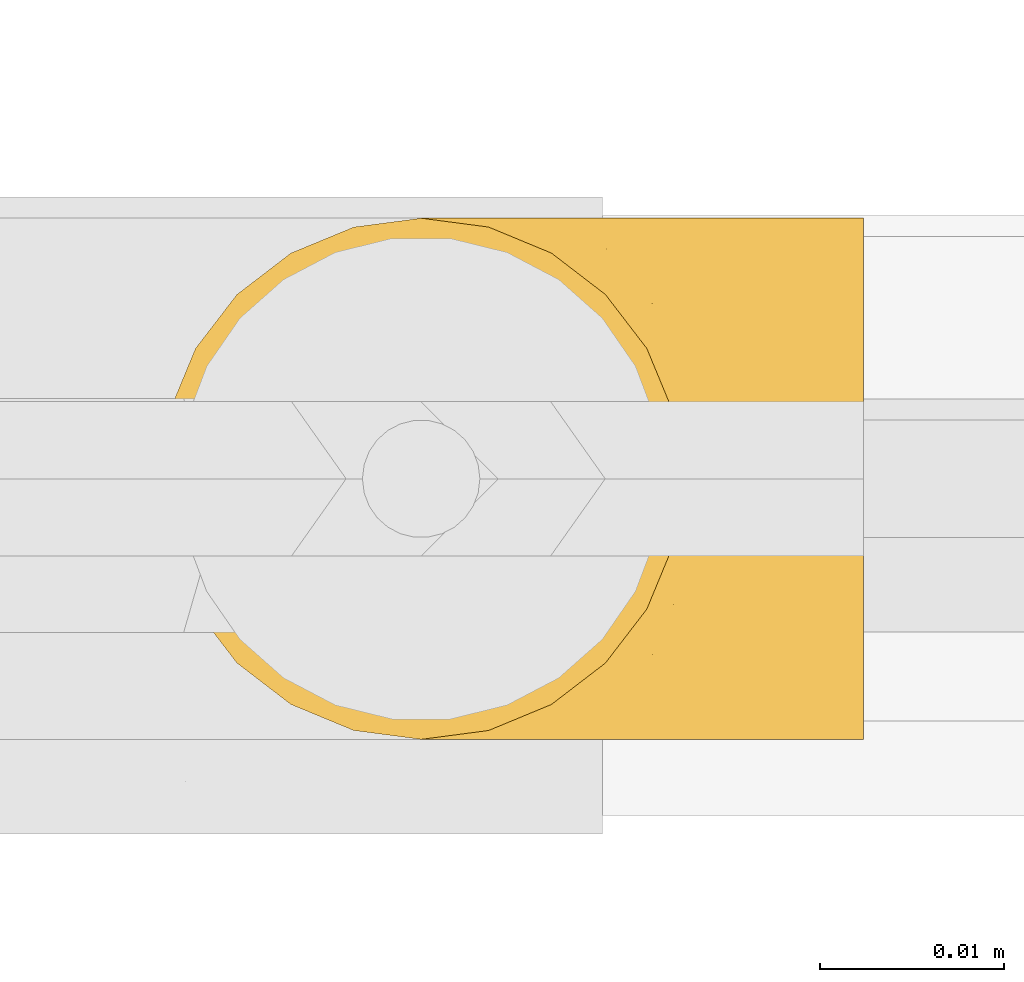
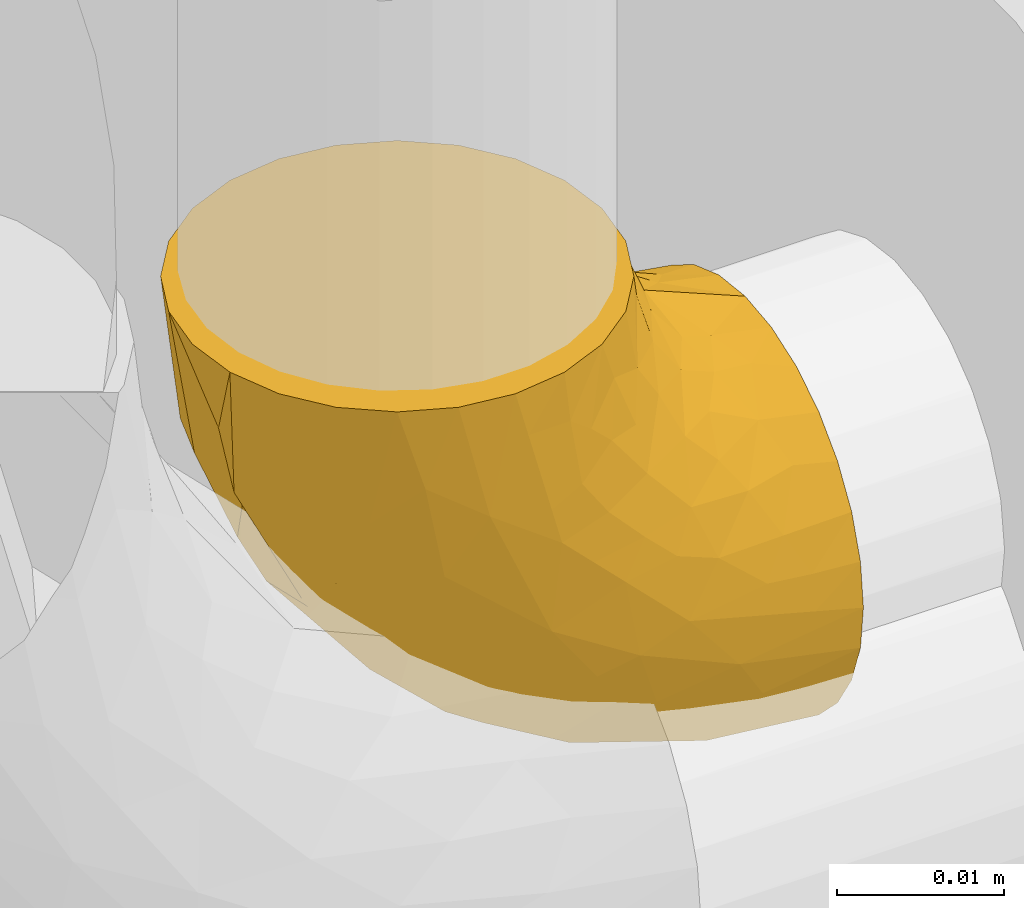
# One storey, part 13 of 32: 1 covering.
"""IFC2X3 building model written with IfcOpenShell, lengths in metres."""

from ifc_helpers import new_model, entity, si_unit, converted_unit, derived_unit, direction, frame, origin, place, context, subcontext, project, spatial, faceted_brep, material, type_object, element, save


model = new_model("IFC2X3")

# Units and contexts
model_context = context("Model", 3, precision=1e-05, world=origin(), true_north=direction((6.123031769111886e-17, 1.0)))
body_context = subcontext(model_context, "Body", "Model", "MODEL_VIEW")
ifc_project = project(units=[si_unit("LENGTHUNIT", "METRE"), si_unit("AREAUNIT", "SQUARE_METRE"), si_unit("VOLUMEUNIT", "CUBIC_METRE"), converted_unit("PLANEANGLEUNIT", "DEGREE", entity("IfcPlaneAngleMeasure", 0.017453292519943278), si_unit("PLANEANGLEUNIT", "RADIAN"), dimensions=[0, 0, 0, 0, 0, 0, 0]), si_unit("MASSUNIT", "GRAM", prefix="KILO"), derived_unit("MASSDENSITYUNIT", [(si_unit("MASSUNIT", "GRAM", prefix="KILO"), 1), (si_unit("LENGTHUNIT", "METRE"), -3)]), derived_unit("IONCONCENTRATIONUNIT", [(si_unit("MASSUNIT", "GRAM", prefix="KILO"), 1), (si_unit("LENGTHUNIT", "METRE"), -3)]), derived_unit("MOMENTOFINERTIAUNIT", [(si_unit("LENGTHUNIT", "METRE"), 4)]), si_unit("TIMEUNIT", "SECOND"), si_unit("FREQUENCYUNIT", "HERTZ"), si_unit("THERMODYNAMICTEMPERATUREUNIT", "DEGREE_CELSIUS"), derived_unit("THERMALTRANSMITTANCEUNIT", [(si_unit("MASSUNIT", "GRAM", prefix="KILO"), 1), (si_unit("THERMODYNAMICTEMPERATUREUNIT", "KELVIN"), -1), (si_unit("TIMEUNIT", "SECOND"), -3)]), derived_unit("THERMALCONDUCTANCEUNIT", [(si_unit("MASSUNIT", "GRAM", prefix="KILO"), 1), (si_unit("THERMODYNAMICTEMPERATUREUNIT", "KELVIN"), -1), (si_unit("TIMEUNIT", "SECOND"), -3), (si_unit("LENGTHUNIT", "METRE"), 1)]), derived_unit("VOLUMETRICFLOWRATEUNIT", [(si_unit("LENGTHUNIT", "METRE", prefix="DECI"), 3), (si_unit("TIMEUNIT", "SECOND"), -1)]), derived_unit("MASSFLOWRATEUNIT", [(si_unit("MASSUNIT", "GRAM", prefix="KILO"), 1), (si_unit("TIMEUNIT", "SECOND"), -1)]), derived_unit("ROTATIONALFREQUENCYUNIT", [(si_unit("TIMEUNIT", "SECOND"), -1)]), si_unit("ELECTRICCURRENTUNIT", "AMPERE"), si_unit("ELECTRICVOLTAGEUNIT", "VOLT"), si_unit("POWERUNIT", "WATT"), si_unit("FORCEUNIT", "NEWTON", prefix="KILO"), si_unit("ILLUMINANCEUNIT", "LUX"), si_unit("LUMINOUSFLUXUNIT", "LUMEN"), si_unit("LUMINOUSINTENSITYUNIT", "CANDELA"), si_unit("ENERGYUNIT", "JOULE"), derived_unit("USERDEFINED", [(si_unit("MASSUNIT", "GRAM", prefix="KILO"), -1), (si_unit("LENGTHUNIT", "METRE"), -2), (si_unit("TIMEUNIT", "SECOND"), 3), (si_unit("LUMINOUSFLUXUNIT", "LUMEN"), 1)]), derived_unit("USERDEFINED", [(si_unit("MASSUNIT", "GRAM", prefix="KILO"), 1), (si_unit("TIMEUNIT", "SECOND"), -3), (si_unit("LENGTHUNIT", "METRE"), 3), (si_unit("ELECTRICCURRENTUNIT", "AMPERE"), -2)]), derived_unit("SOUNDPOWERUNIT", [(si_unit("MASSUNIT", "GRAM", prefix="KILO"), 1), (si_unit("TIMEUNIT", "SECOND"), -3), (si_unit("LENGTHUNIT", "METRE"), 2)]), derived_unit("SOUNDPRESSUREUNIT", [(si_unit("MASSUNIT", "GRAM", prefix="KILO"), 1), (si_unit("LENGTHUNIT", "METRE"), -1), (si_unit("TIMEUNIT", "SECOND"), -2)]), derived_unit("LINEARVELOCITYUNIT", [(si_unit("LENGTHUNIT", "METRE"), 1), (si_unit("TIMEUNIT", "SECOND"), -1)]), si_unit("PRESSUREUNIT", "PASCAL"), derived_unit("USERDEFINED", [(si_unit("MASSUNIT", "GRAM", prefix="KILO"), 1), (si_unit("LENGTHUNIT", "METRE"), -2), (si_unit("TIMEUNIT", "SECOND"), -2)]), derived_unit("LINEARFORCEUNIT", [(si_unit("MASSUNIT", "GRAM", prefix="KILO"), 1), (si_unit("TIMEUNIT", "SECOND"), -2)]), derived_unit("PLANARFORCEUNIT", [(si_unit("MASSUNIT", "GRAM", prefix="KILO"), 1), (si_unit("LENGTHUNIT", "METRE"), -1), (si_unit("TIMEUNIT", "SECOND"), -2)]), derived_unit("SPECIFICHEATCAPACITYUNIT", [(si_unit("THERMODYNAMICTEMPERATUREUNIT", "KELVIN"), -1), (si_unit("LENGTHUNIT", "METRE"), 2), (si_unit("TIMEUNIT", "SECOND"), -2)]), derived_unit("HEATFLUXDENSITYUNIT", [(si_unit("MASSUNIT", "GRAM", prefix="KILO"), 1), (si_unit("TIMEUNIT", "SECOND"), -3)]), derived_unit("HEATINGVALUEUNIT", [(si_unit("LENGTHUNIT", "METRE"), 2), (si_unit("TIMEUNIT", "SECOND"), -2)]), derived_unit("VAPORPERMEABILITYUNIT", [(si_unit("LENGTHUNIT", "METRE"), -1), (si_unit("TIMEUNIT", "SECOND"), 1)]), derived_unit("DYNAMICVISCOSITYUNIT", [(si_unit("MASSUNIT", "GRAM", prefix="KILO"), 1), (si_unit("TIMEUNIT", "SECOND"), -1), (si_unit("LENGTHUNIT", "METRE"), -1)]), derived_unit("THERMALEXPANSIONCOEFFICIENTUNIT", [(si_unit("THERMODYNAMICTEMPERATUREUNIT", "KELVIN"), -1)]), derived_unit("MODULUSOFELASTICITYUNIT", [(si_unit("MASSUNIT", "GRAM", prefix="KILO"), 1), (si_unit("LENGTHUNIT", "METRE"), -1), (si_unit("TIMEUNIT", "SECOND"), -2)]), derived_unit("ISOTHERMALMOISTURECAPACITYUNIT", [(si_unit("MASSUNIT", "GRAM", prefix="KILO"), -1), (si_unit("LENGTHUNIT", "METRE"), 3)]), derived_unit("MOISTUREDIFFUSIVITYUNIT", [(si_unit("TIMEUNIT", "SECOND"), -1), (si_unit("LENGTHUNIT", "METRE"), 2)]), derived_unit("MASSPERLENGTHUNIT", [(si_unit("MASSUNIT", "GRAM", prefix="KILO"), 1), (si_unit("LENGTHUNIT", "METRE"), -1)]), derived_unit("THERMALRESISTANCEUNIT", [(si_unit("MASSUNIT", "GRAM", prefix="KILO"), -1), (si_unit("TIMEUNIT", "SECOND"), 3), (si_unit("THERMODYNAMICTEMPERATUREUNIT", "KELVIN"), 1)]), derived_unit("ACCELERATIONUNIT", [(si_unit("LENGTHUNIT", "METRE"), 1), (si_unit("TIMEUNIT", "SECOND"), -2)]), derived_unit("ANGULARVELOCITYUNIT", [(si_unit("TIMEUNIT", "SECOND"), -1), (si_unit("PLANEANGLEUNIT", "RADIAN"), 1)]), derived_unit("LINEARSTIFFNESSUNIT", [(si_unit("MASSUNIT", "GRAM", prefix="KILO"), 1), (si_unit("TIMEUNIT", "SECOND"), -2)]), derived_unit("WARPINGCONSTANTUNIT", [(si_unit("LENGTHUNIT", "METRE"), 6)]), derived_unit("LINEARMOMENTUNIT", [(si_unit("MASSUNIT", "GRAM", prefix="KILO"), 1), (si_unit("LENGTHUNIT", "METRE"), 1), (si_unit("TIMEUNIT", "SECOND"), -2)]), derived_unit("TORQUEUNIT", [(si_unit("MASSUNIT", "GRAM", prefix="KILO"), 1), (si_unit("LENGTHUNIT", "METRE"), 2), (si_unit("TIMEUNIT", "SECOND"), -2)])], contexts=[model_context])

# Site, building, storey
site_placement = place(None, origin())
site = spatial("IfcSite", under=ifc_project, at=site_placement, Name="Default", CompositionType="ELEMENT")
building_placement = place(site_placement, origin())
building = spatial("IfcBuilding", under=site, at=building_placement, CompositionType="ELEMENT")
storey_placement = place(building_placement, origin())
storey = spatial("IfcBuildingStorey", under=building, at=storey_placement, Name="Niveau 0", CompositionType="ELEMENT", Elevation=-1.949160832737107e-14)

# Covering
ifc_material = material(Name="Matériau du rendu 255-255-255")
covering_type = type_object("IfcCoveringType", Name="Isolation des canalisations:Par défaut", PredefinedType="INSULATION")
covering_placement = place(storey_placement, frame((-14.986716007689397, 1.361257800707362, -0.37430472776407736)))
element("IfcCovering", 1, at=covering_placement, inside=storey, type_object=covering_type, material=ifc_material, Name="Isolation des canalisations:Par défaut", ObjectType="Isolation des canalisations:Par défaut", PredefinedType="INSULATION", context=body_context, shape_type="Brep", body=[
    faceted_brep([(0.03989527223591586, 0.0019516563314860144, -0.028856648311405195), (0.03989527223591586, 0.0030025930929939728, -0.03185866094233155), (0.03989527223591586, 0.00469499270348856, -0.03455099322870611), (0.03989527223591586, 0.006943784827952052, -0.03679892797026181), (0.03989527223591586, 0.009636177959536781, -0.03849001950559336), (0.03989527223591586, 0.012637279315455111, -0.03953966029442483), (0.03989527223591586, 0.01579527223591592, -0.03989527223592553), (0.03989527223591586, 0.018956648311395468, -0.03953888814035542), (0.03989527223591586, 0.02195866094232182, -0.03848795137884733), (0.03989527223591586, 0.02465099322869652, -0.03679555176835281), (0.03989527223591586, 0.02689892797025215, -0.03454675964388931), (0.03989527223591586, 0.0285900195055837, -0.03185436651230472), (0.03989527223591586, 0.029639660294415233, -0.02885326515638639), (0.03989527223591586, 0.02999527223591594, -0.025695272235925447), (0.03989527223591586, 0.029638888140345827, -0.022533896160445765), (0.03989527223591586, 0.028587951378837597, -0.01953188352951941), (0.03989527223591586, 0.02689555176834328, -0.016839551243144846), (0.03989527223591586, 0.02464675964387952, -0.014591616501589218), (0.03989527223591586, 0.02195436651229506, -0.012900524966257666), (0.03989527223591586, 0.018953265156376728, -0.011850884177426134), (0.03989527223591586, 0.01579527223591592, -0.011495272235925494), (0.03989527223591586, 0.012633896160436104, -0.011851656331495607), (0.03989527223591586, 0.009631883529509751, -0.0129025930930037), (0.03989527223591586, 0.0069395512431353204, -0.01459499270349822), (0.03989527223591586, 0.004691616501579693, -0.01684378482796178), (0.03989527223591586, 0.0030005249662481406, -0.019536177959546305), (0.03989527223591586, 0.0019508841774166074, -0.022537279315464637), (0.03989527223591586, 0.0015952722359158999, -0.025695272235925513), (0.029511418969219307, 0.019470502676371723, -0.0015952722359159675), (0.028092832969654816, 0.02289527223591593, -0.0015952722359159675), (0.025836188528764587, 0.025836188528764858, -0.0015952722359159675), (0.02289527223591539, 0.028092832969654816, -0.0015952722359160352), (0.019470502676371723, 0.029511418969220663, -0.0015952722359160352), (0.01579527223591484, 0.02999527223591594, -0.0015952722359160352), (0.012120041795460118, 0.029511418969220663, -0.0015952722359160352), (0.008695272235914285, 0.028092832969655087, -0.0015952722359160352), (0.005754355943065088, 0.025836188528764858, -0.0015952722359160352), (0.0034977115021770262, 0.02289527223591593, -0.0015952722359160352), (0.002079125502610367, 0.019470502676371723, -0.0015952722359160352), (0.0015952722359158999, 0.01579527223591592, -0.0015952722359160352), (0.002079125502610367, 0.012120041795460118, -0.0015952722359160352), (0.0034977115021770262, 0.00869527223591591, -0.0015952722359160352), (0.005754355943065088, 0.005754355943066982, -0.0015952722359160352), (0.008695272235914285, 0.0034977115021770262, -0.0015952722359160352), (0.012120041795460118, 0.002079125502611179, -0.0015952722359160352), (0.01579527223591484, 0.0015952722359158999, -0.0015952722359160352), (0.019470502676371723, 0.002079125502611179, -0.0015952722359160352), (0.02289527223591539, 0.0034977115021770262, -0.0015952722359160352), (0.025836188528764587, 0.005754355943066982, -0.0015952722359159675), (0.028092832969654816, 0.00869527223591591, -0.0015952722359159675), (0.029511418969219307, 0.012120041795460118, -0.0015952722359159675), (0.02999527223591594, 0.01579527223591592, -0.0015952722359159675), (0.03146698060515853, 0.0018566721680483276, -0.02704820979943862), (0.0031203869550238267, 0.013423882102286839, -0.011558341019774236), (0.0034119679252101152, 0.01579527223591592, -0.008375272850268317), (0.005069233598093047, 0.01579527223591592, -0.014560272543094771), (0.011886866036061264, 0.003337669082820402, -0.014682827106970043), (0.00768296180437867, 0.0050496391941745, -0.010357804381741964), (0.010723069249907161, 0.005409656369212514, -0.018634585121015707), (0.024625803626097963, 0.0019283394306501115, -0.024053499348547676), (0.027845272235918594, 0.0015952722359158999, -0.02246648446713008), (0.030629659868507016, 0.011502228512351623, -0.03807237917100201), (0.02392756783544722, 0.009156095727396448, -0.034586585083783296), (0.02345906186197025, 0.012083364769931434, -0.035641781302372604), (0.018688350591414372, 0.002245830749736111, -0.020408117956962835), (0.023434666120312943, 0.0015952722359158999, -0.018055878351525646), (0.007069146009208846, 0.008040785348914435, -0.016364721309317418), (0.003657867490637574, 0.010786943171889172, -0.010797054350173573), (0.007105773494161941, 0.011666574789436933, -0.020172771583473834), (0.010332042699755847, 0.002946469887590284, -0.007491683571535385), (0.014222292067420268, 0.0019132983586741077, -0.010237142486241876), (0.012450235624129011, 0.008787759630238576, -0.025582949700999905), (0.019024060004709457, 0.0015952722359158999, -0.013645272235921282), (0.018308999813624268, 0.0015952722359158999, -0.010976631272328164), (0.017593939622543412, 0.0015952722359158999, -0.00830799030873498), (0.017409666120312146, 0.0015952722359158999, -0.007620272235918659), (0.016694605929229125, 0.0015952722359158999, -0.004951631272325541), (0.02208875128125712, 0.002682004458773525, -0.025175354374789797), (0.015751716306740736, 0.0035716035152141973, -0.021556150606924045), (0.020432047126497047, 0.0038638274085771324, -0.02674252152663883), (0.032926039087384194, 0.004162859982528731, -0.03307723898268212), (0.030551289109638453, 0.006322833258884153, -0.03499160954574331), (0.03305521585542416, 0.008616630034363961, -0.03729777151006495), (0.026930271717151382, 0.01579527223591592, -0.036421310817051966), (0.03354339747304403, 0.0026590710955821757, -0.030395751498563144), (0.026409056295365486, 0.003024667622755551, -0.028738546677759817), (0.004907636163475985, 0.007548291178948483, -0.008485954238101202), (0.03653891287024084, 0.0015952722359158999, -0.024795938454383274), (0.03387027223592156, 0.0015952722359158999, -0.024080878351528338), (0.03318255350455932, 0.0015952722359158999, -0.023896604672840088), (0.03051391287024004, 0.0015952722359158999, -0.023181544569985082), (0.024636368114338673, 0.004997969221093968, -0.031219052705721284), (0.019588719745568, 0.007159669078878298, -0.030558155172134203), (0.03311527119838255, 0.01579527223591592, -0.038078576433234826), (0.01610566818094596, 0.005390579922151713, -0.0255541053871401), (0.013735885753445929, 0.01579527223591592, -0.027754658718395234), (0.02074527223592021, 0.01579527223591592, -0.03476404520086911), (0.01696345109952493, 0.012056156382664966, -0.031643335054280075), (0.006726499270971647, 0.01579527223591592, -0.02074527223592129), (0.01151397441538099, 0.01168198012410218, -0.026397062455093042), (0.018143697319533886, 0.009491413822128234, -0.03130855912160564), (0.021229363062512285, 0.0015952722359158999, -0.0158505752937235), (0.02563996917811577, 0.0015952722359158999, -0.020261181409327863), (0.030232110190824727, 0.0022134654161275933, -0.019055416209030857), (0.03504783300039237, 0.0027610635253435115, -0.01941299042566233), (0.033347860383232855, 0.004050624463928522, -0.01632414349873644), (0.020600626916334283, 0.001920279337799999, -0.01008373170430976), (0.019902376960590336, 0.002102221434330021, -0.00533489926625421), (0.026696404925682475, 0.005860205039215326, -0.006124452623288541), (0.028391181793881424, 0.006234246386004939, -0.008851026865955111), (0.029556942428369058, 0.008939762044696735, -0.006997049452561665), (0.025886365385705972, 0.003257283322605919, -0.011972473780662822), (0.02249376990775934, 0.0020017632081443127, -0.012855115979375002), (0.02503988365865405, 0.0020805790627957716, -0.015604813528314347), (0.028891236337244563, 0.009727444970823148, -0.003990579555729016), (0.02158166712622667, 0.002533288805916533, -0.006747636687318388), (0.024031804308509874, 0.0040093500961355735, -0.004778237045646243), (0.03137801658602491, 0.012324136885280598, -0.007441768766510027), (0.03289491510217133, 0.01579527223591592, -0.008595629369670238), (0.03144509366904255, 0.01579527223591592, -0.0050954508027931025), (0.03317880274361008, 0.01175165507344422, -0.009650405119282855), (0.036552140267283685, 0.0019493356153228, -0.02227559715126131), (0.03568980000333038, 0.01261668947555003, -0.010954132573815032), (0.03423455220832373, 0.009696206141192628, -0.011348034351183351), (0.03722732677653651, 0.010446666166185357, -0.012210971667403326), (0.035780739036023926, 0.007063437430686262, -0.013823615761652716), (0.032410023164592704, 0.007124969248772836, -0.012045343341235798), (0.031437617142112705, 0.0088288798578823, -0.009717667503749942), (0.036925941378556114, 0.00493063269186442, -0.016254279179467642), (0.033404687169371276, 0.0018816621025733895, -0.021842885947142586), (0.03010341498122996, 0.012792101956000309, -0.00452657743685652), (0.036395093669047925, 0.01579527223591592, -0.010045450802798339), (0.028851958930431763, 0.0031282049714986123, -0.015405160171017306), (0.031813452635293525, 0.004981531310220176, -0.014108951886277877), (0.025603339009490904, 0.004122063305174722, -0.008820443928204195), (0.023265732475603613, 0.002976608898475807, -0.008460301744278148), (0.027264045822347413, 0.0020511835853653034, -0.017780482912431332), (0.029734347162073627, 0.005370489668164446, -0.011880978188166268), (0.03143814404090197, 0.02275844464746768, -0.00971559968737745), (0.031377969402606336, 0.019266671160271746, -0.007441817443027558), (0.033180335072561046, 0.019833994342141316, -0.00964979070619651), (0.03653891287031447, 0.02999527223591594, -0.024795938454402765), (0.029871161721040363, 0.01996442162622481, -0.004806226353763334), (0.018308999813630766, 0.02999527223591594, -0.010976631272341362), (0.02060062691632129, 0.029670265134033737, -0.01008373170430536), (0.019024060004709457, 0.02999527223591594, -0.013645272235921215), (0.02867750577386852, 0.022374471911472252, -0.004199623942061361), (0.019902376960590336, 0.029488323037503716, -0.0053348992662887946), (0.016694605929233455, 0.02999527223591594, -0.004951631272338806), (0.029738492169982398, 0.026214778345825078, -0.011877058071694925), (0.028856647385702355, 0.028458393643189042, -0.01539894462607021), (0.025891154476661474, 0.02832921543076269, -0.011966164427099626), (0.02326573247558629, 0.028613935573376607, -0.008460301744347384), (0.021581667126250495, 0.029057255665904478, -0.006747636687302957), (0.02403180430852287, 0.027581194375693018, -0.004778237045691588), (0.02669633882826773, 0.025730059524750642, -0.00612341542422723), (0.028391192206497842, 0.02535501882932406, -0.00884885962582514), (0.029555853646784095, 0.02264995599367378, -0.006993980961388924), (0.03722818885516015, 0.021139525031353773, -0.012209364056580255), (0.03569117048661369, 0.01897135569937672, -0.010954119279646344), (0.03504891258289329, 0.02882716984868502, -0.019407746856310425), (0.03655023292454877, 0.02964047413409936, -0.02227202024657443), (0.03578262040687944, 0.024522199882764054, -0.013820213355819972), (0.03387027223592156, 0.02999527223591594, -0.024080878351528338), (0.03318255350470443, 0.02999527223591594, -0.02389660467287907), (0.030228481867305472, 0.029376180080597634, -0.019050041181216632), (0.03335039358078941, 0.027535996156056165, -0.016318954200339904), (0.036927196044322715, 0.02665593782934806, -0.01624971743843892), (0.03423654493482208, 0.021889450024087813, -0.0113465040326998), (0.03241284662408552, 0.024460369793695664, -0.012042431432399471), (0.025602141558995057, 0.027467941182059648, -0.00881634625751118), (0.022497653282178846, 0.029588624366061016, -0.012859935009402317), (0.03051391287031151, 0.02999527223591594, -0.023181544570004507), (0.027845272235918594, 0.02999527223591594, -0.022466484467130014), (0.03186606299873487, 0.029688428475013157, -0.02117704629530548), (0.03181664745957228, 0.026604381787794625, -0.0141045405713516), (0.027279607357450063, 0.029534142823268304, -0.01776721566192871), (0.023434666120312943, 0.02999527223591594, -0.018055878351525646), (0.02505454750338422, 0.029507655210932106, -0.015607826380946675), (0.02563996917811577, 0.02999527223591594, -0.020261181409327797), (0.021229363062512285, 0.02999527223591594, -0.01585057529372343), (0.01759393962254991, 0.02999527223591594, -0.008307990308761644), (0.017409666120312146, 0.02999527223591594, -0.007620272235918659), (0.007682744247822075, 0.026540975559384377, -0.010356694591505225), (0.011885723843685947, 0.028253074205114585, -0.014679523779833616), (0.01072316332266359, 0.026181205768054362, -0.0186340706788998), (0.03292620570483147, 0.027430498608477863, -0.0330731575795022), (0.014222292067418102, 0.029677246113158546, -0.010237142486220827), (0.012458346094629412, 0.022802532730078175, -0.025592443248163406), (0.016963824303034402, 0.019536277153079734, -0.03164297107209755), (0.011208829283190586, 0.018853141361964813, -0.026466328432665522), (0.0195909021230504, 0.024434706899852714, -0.030556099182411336), (0.024638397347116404, 0.026595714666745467, -0.031215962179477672), (0.030551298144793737, 0.02527152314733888, -0.03498806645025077), (0.010331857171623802, 0.028644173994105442, -0.007489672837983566), (0.0036581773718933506, 0.020803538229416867, -0.01079837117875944), (0.007070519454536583, 0.023549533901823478, -0.016368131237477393), (0.007105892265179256, 0.019923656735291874, -0.02017317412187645), (0.02641062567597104, 0.028567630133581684, -0.028735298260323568), (0.019389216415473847, 0.028146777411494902, -0.024984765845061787), (0.0246266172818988, 0.029662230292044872, -0.024053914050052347), (0.03062937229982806, 0.02009200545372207, -0.03807109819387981), (0.03146839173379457, 0.029734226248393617, -0.027046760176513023), (0.004907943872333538, 0.02404213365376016, -0.008487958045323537), (0.03305363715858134, 0.02297803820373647, -0.03729500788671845), (0.023928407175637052, 0.022438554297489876, -0.034584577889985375), (0.01868931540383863, 0.02934445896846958, -0.020410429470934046), (0.015393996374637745, 0.028396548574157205, -0.020003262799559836), (0.0031203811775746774, 0.018166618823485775, -0.011558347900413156), (0.016108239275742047, 0.026203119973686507, -0.025551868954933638), (0.03354382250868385, 0.02893300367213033, -0.03039202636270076), (0.02346964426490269, 0.018862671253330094, -0.03582275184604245), (0.018141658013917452, 0.022102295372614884, -0.03130512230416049)], [[[0, 1, 2, 3, 4, 5, 6, 7, 8, 9, 10, 11, 12, 13, 14, 15, 16, 17, 18, 19, 20, 21, 22, 23, 24, 25, 26, 27]], [[28, 29, 30, 31, 32, 33, 34, 35, 36, 37, 38, 39, 40, 41, 42, 43, 44, 45, 46, 47, 48, 49, 50, 51]], [[27, 52, 0]], [[53, 54, 55]], [[56, 57, 58]], [[59, 52, 60]], [[61, 62, 63]], [[64, 59, 65]], [[66, 67, 68]], [[57, 56, 69]], [[70, 45, 44]], [[43, 42, 57]], [[66, 68, 71]], [[70, 72, 73, 74, 75, 76, 45]], [[44, 43, 69]], [[77, 78, 79]], [[80, 81, 2]], [[41, 40, 67]], [[82, 62, 61]], [[2, 81, 3]], [[63, 83, 61]], [[61, 5, 4]], [[84, 52, 85]], [[40, 39, 54]], [[58, 78, 56]], [[66, 86, 67]], [[86, 42, 41]], [[52, 27, 87, 88, 89, 90, 60]], [[91, 92, 81]], [[70, 64, 72]], [[80, 2, 1]], [[93, 5, 61]], [[1, 0, 84]], [[93, 6, 5]], [[81, 80, 91]], [[4, 82, 61]], [[54, 53, 40]], [[82, 4, 3]], [[68, 67, 53]], [[86, 57, 42]], [[58, 94, 78]], [[69, 70, 44]], [[64, 70, 56]], [[78, 64, 56]], [[85, 52, 59]], [[3, 81, 82]], [[62, 82, 81]], [[84, 80, 1]], [[91, 80, 85]], [[79, 91, 85]], [[91, 94, 92]], [[95, 96, 97]], [[94, 58, 71]], [[98, 95, 99]], [[99, 95, 97]], [[92, 62, 81]], [[92, 100, 62]], [[68, 99, 71]], [[52, 84, 0]], [[80, 84, 85]], [[67, 86, 41]], [[57, 86, 66]], [[57, 66, 58]], [[71, 58, 66]], [[64, 65, 101, 72]], [[77, 79, 85]], [[59, 60, 102, 65]], [[94, 71, 92]], [[71, 99, 100]], [[68, 53, 55]], [[98, 68, 55]], [[40, 53, 67]], [[71, 100, 92]], [[63, 100, 97]], [[57, 69, 43]], [[70, 69, 56]], [[100, 63, 62]], [[83, 93, 61]], [[79, 78, 94]], [[91, 79, 94]], [[85, 59, 77]], [[59, 64, 77]], [[78, 77, 64]], [[99, 68, 98]], [[100, 99, 97]], [[97, 96, 63]], [[83, 63, 96]], [[103, 104, 105]], [[72, 106, 73]], [[47, 46, 107]], [[107, 46, 76]], [[108, 109, 110]], [[111, 112, 113]], [[108, 110, 114]], [[47, 115, 116]], [[117, 118, 119]], [[108, 49, 48]], [[118, 117, 120]], [[25, 121, 26]], [[49, 114, 50]], [[122, 123, 124]], [[124, 125, 22]], [[126, 123, 127]], [[128, 104, 24]], [[129, 103, 60]], [[24, 104, 25]], [[27, 26, 87]], [[123, 120, 127]], [[130, 117, 119]], [[107, 76, 75, 74, 73]], [[131, 118, 122, 20]], [[105, 132, 103]], [[21, 124, 22]], [[23, 22, 125]], [[121, 87, 26]], [[126, 133, 125]], [[130, 110, 117]], [[123, 122, 120]], [[128, 24, 23]], [[50, 130, 51]], [[128, 125, 105]], [[129, 121, 104]], [[116, 108, 48]], [[134, 135, 111]], [[135, 112, 111]], [[127, 120, 117]], [[21, 20, 122]], [[125, 124, 123]], [[21, 122, 124]], [[105, 133, 132]], [[136, 103, 132]], [[111, 132, 137]], [[113, 136, 132]], [[111, 137, 109]], [[112, 106, 72]], [[118, 120, 122]], [[127, 117, 110]], [[109, 127, 110]], [[126, 127, 137]], [[133, 126, 137]], [[125, 123, 126]], [[132, 133, 137]], [[125, 133, 105]], [[125, 128, 23]], [[104, 128, 105]], [[113, 101, 65]], [[101, 113, 112]], [[102, 136, 65]], [[132, 111, 113]], [[103, 102, 60]], [[104, 121, 25]], [[121, 89, 88, 87]], [[129, 60, 90, 89]], [[121, 129, 89]], [[115, 107, 106]], [[106, 112, 135]], [[73, 106, 107]], [[106, 135, 115]], [[116, 115, 135]], [[47, 107, 115]], [[116, 135, 134]], [[47, 116, 48]], [[51, 130, 119]], [[130, 50, 114]], [[112, 72, 101]], [[108, 114, 49]], [[130, 114, 110]], [[65, 136, 113]], [[102, 103, 136]], [[46, 45, 76]], [[109, 108, 134]], [[127, 109, 137]], [[109, 134, 111]], [[116, 134, 108]], [[103, 129, 104]], [[138, 139, 140]], [[14, 13, 141]], [[119, 142, 51]], [[139, 142, 119]], [[143, 144, 145]], [[142, 146, 28]], [[147, 148, 32]], [[149, 150, 151]], [[152, 153, 154]], [[118, 139, 119]], [[155, 29, 146]], [[138, 156, 157]], [[158, 159, 19]], [[157, 139, 138]], [[18, 158, 19]], [[160, 15, 161]], [[17, 162, 18]], [[161, 141, 163, 164]], [[160, 165, 166]], [[147, 32, 31]], [[17, 16, 167]], [[168, 158, 162]], [[160, 166, 167]], [[149, 138, 169]], [[170, 156, 151]], [[151, 171, 152]], [[172, 173, 174, 164]], [[14, 161, 15]], [[155, 30, 29]], [[160, 16, 15]], [[19, 159, 20]], [[118, 131, 20, 159]], [[169, 175, 149]], [[167, 162, 17]], [[174, 165, 160]], [[156, 155, 157]], [[155, 170, 154]], [[150, 166, 165]], [[118, 159, 140]], [[142, 139, 157]], [[162, 158, 18]], [[159, 158, 168]], [[159, 168, 140]], [[176, 177, 178]], [[150, 149, 175]], [[176, 178, 150]], [[171, 145, 144]], [[165, 179, 176]], [[170, 151, 152]], [[140, 168, 138]], [[118, 140, 139]], [[169, 138, 168]], [[156, 138, 149]], [[168, 162, 169]], [[175, 162, 166]], [[162, 175, 169]], [[150, 175, 166]], [[160, 167, 16]], [[162, 167, 166]], [[178, 171, 151]], [[178, 180, 171]], [[151, 150, 178]], [[165, 173, 179]], [[176, 150, 165]], [[141, 161, 14]], [[174, 173, 165]], [[174, 161, 164]], [[152, 144, 153]], [[147, 143, 181, 182, 148]], [[147, 153, 144]], [[147, 144, 143]], [[171, 144, 152]], [[147, 31, 153]], [[154, 31, 30]], [[31, 154, 153]], [[155, 154, 30]], [[146, 142, 157]], [[142, 28, 51]], [[155, 146, 157]], [[28, 146, 29]], [[180, 178, 177]], [[180, 145, 171]], [[177, 176, 179]], [[148, 33, 32]], [[151, 156, 149]], [[154, 170, 152]], [[156, 170, 155]], [[161, 174, 160]], [[183, 184, 185]], [[10, 186, 11]], [[187, 33, 148, 182, 181, 143, 145]], [[188, 189, 190]], [[191, 192, 193]], [[34, 194, 35]], [[195, 38, 37]], [[195, 196, 197]], [[194, 183, 35]], [[54, 39, 38]], [[183, 36, 35]], [[98, 55, 197]], [[198, 199, 200]], [[8, 7, 201]], [[200, 173, 202]], [[203, 195, 37]], [[13, 12, 202]], [[36, 203, 37]], [[9, 193, 10]], [[204, 205, 193]], [[187, 206, 207]], [[193, 186, 10]], [[7, 6, 93]], [[55, 208, 197]], [[186, 192, 198]], [[201, 204, 8]], [[192, 199, 198]], [[192, 191, 209]], [[202, 173, 172, 164, 163, 141, 13]], [[7, 93, 201]], [[210, 202, 12]], [[204, 9, 8]], [[33, 187, 34]], [[11, 210, 12]], [[83, 96, 211]], [[207, 206, 199]], [[38, 195, 208]], [[207, 185, 184]], [[203, 183, 196]], [[206, 187, 145]], [[194, 187, 184]], [[206, 177, 200]], [[206, 200, 199]], [[205, 204, 201]], [[193, 9, 204]], [[192, 186, 193]], [[210, 186, 198]], [[191, 193, 205]], [[199, 192, 209]], [[196, 185, 188]], [[190, 98, 197]], [[197, 196, 188]], [[95, 189, 96]], [[211, 205, 201]], [[190, 189, 95]], [[212, 188, 191]], [[186, 210, 11]], [[202, 210, 198]], [[183, 203, 36]], [[195, 203, 196]], [[188, 185, 209]], [[196, 183, 185]], [[198, 200, 202]], [[212, 191, 205]], [[206, 145, 180, 177]], [[200, 177, 179, 173]], [[188, 209, 191]], [[38, 208, 54]], [[54, 208, 55]], [[197, 208, 195]], [[205, 189, 212]], [[188, 212, 189]], [[187, 194, 34]], [[183, 194, 184]], [[189, 211, 96]], [[201, 93, 83]], [[209, 185, 207]], [[207, 199, 209]], [[187, 207, 184]], [[98, 190, 95]], [[188, 190, 197]], [[205, 211, 189]], [[83, 211, 201]]]),
])

save(model, "model.ifc")
